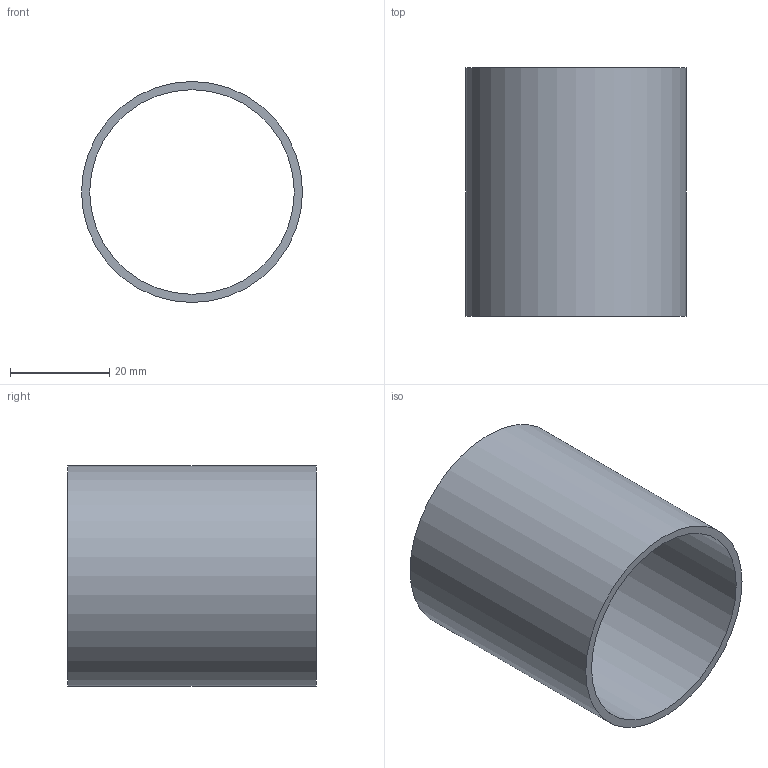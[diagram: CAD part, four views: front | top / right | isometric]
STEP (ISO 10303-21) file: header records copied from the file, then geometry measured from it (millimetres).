
FILE_DESCRIPTION(/* description */ (''),/* implementation_level */ '2;1');
FILE_NAME(/* name */ 'C:\Users\strothej\Documents\ActualDocuments\MicroscopeParts\TwoPhotonSystem\ScanningMechanics\v27\Drawings\Collection_Tube.stp',/* time_stamp */ '2017-05-30T18:16:33-07:00',/* author */ ('strothej'),/* organization */ (''),/* preprocessor_version */ 'ST-DEVELOPER v16.1',/* originating_system */ 'Autodesk Inventor 2016',/* authorisation */ '');
FILE_SCHEMA (('AUTOMOTIVE_DESIGN { 1 0 10303 214 3 1 1 }'));
Length unit declared in the file: inch
Products named in the file (1): Collection_Tube
Bounding box: 44.45 x 50 x 44.45 mm (x, y, z)
Volume: 11099.4 mm3; surface area: 13889.7 mm2
Topology: 1 solids, 1 shells, 4 faces, 6 edges, 4 vertices
Faces by surface type: cylinder 2, plane 2
Full cylindrical faces by diameter (mm): 41.148 x1, 44.45 x1
Entity records: 114 total; most frequent: DIRECTION 18, CARTESIAN_POINT 13, AXIS2_PLACEMENT_3D 9, EDGE_LOOP 8, ORIENTED_EDGE 8, FACE_BOUND 4, FACE_OUTER_BOUND 4, CIRCLE 4
